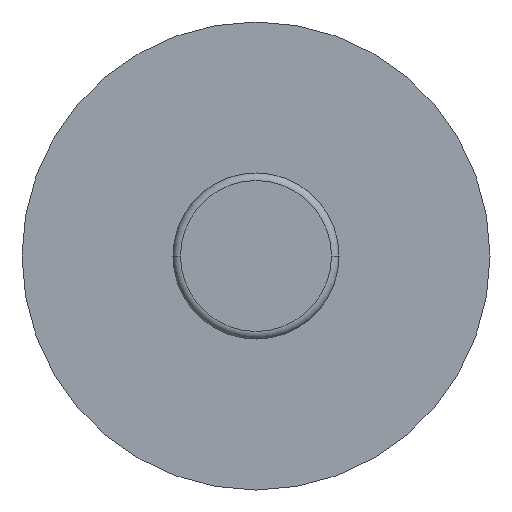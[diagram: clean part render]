
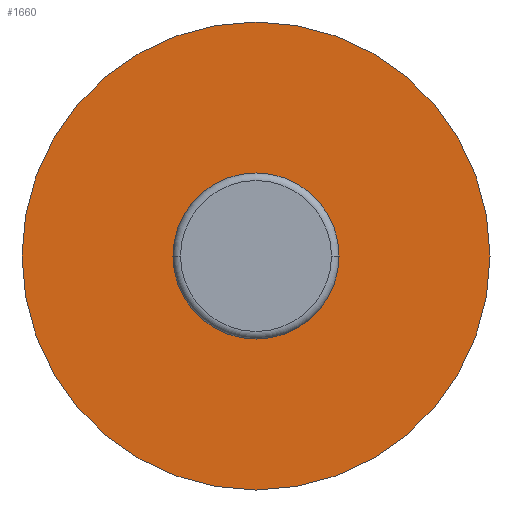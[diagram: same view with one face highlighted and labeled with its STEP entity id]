
A CAD part, front view. The second image highlights one B-rep face of the part: STEP entity #1660.
In plain terms, the highlighted planar face has unit normal (0, -1, 0).
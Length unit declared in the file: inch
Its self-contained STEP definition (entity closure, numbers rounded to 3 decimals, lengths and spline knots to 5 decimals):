
#689=CARTESIAN_POINT('',(0.,0.08,0.));
#690=DIRECTION('',(0.,-1.,0.));
#691=DIRECTION('',(1.,0.,0.));
#692=AXIS2_PLACEMENT_3D('',#689,#690,#691);
#694=CARTESIAN_POINT('',(0.,0.08,0.));
#695=DIRECTION('',(0.,-1.,0.));
#696=DIRECTION('',(-1.,0.,0.));
#697=AXIS2_PLACEMENT_3D('',#694,#695,#696);
#883=CARTESIAN_POINT('',(4.,0.08,0.));
#884=CARTESIAN_POINT('',(-4.,0.08,0.));
#885=VERTEX_POINT('',#883);
#886=VERTEX_POINT('',#884);
#1651=CARTESIAN_POINT('',(4.8,0.08,-4.25));
#1652=DIRECTION('',(0.,1.,0.));
#1653=DIRECTION('',(0.,0.,1.));
#1654=AXIS2_PLACEMENT_3D('',#1651,#1652,#1653);
#1655=PLANE('',#1654);
#1656=ORIENTED_EDGE('',*,*,#922,.F.);
#1657=ORIENTED_EDGE('',*,*,#1307,.F.);
#1658=EDGE_LOOP('',(#1656,#1657));
#1659=FACE_OUTER_BOUND('',#1658,.F.);
#1660=ADVANCED_FACE('',(#1659),#1655,.F.);
#693=CIRCLE('',#692,4.);
#698=CIRCLE('',#697,4.);
#922=EDGE_CURVE('',#885,#886,#693,.T.);
#1307=EDGE_CURVE('',#886,#885,#698,.T.);
